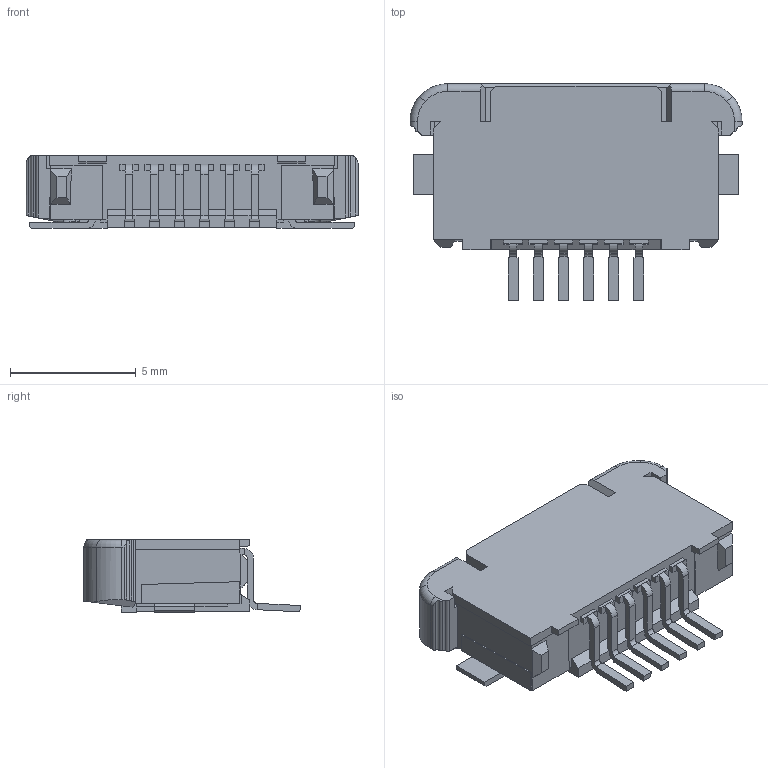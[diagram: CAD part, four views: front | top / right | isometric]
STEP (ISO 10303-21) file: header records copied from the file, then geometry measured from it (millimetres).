
FILE_DESCRIPTION (( 'STEP AP214' ), '1' );
FILE_NAME ('006224006001.STEP', '2024-09-11T04:04:00', ( '' ), ( '' ), 'SwSTEP 2.0', 'SolidWorks 2023', '' );
FILE_SCHEMA (( 'AUTOMOTIVE_DESIGN' ));
Length unit declared in the file: millimetre
Products named in the file (1): 006224006001
Bounding box: 13.2 x 8.61 x 2.9 mm (x, y, z)
Volume: 183.9 mm3; surface area: 378.3 mm2
Topology: 1 solids, 1 shells, 284 faces, 841 edges, 555 vertices
Faces by surface type: plane 228, cylinder 52, torus 4
Entity records: 9595 total; most frequent: CARTESIAN_POINT 1946, ORIENTED_EDGE 1682, DIRECTION 1471, EDGE_CURVE 841, LINE 697, VECTOR 697, VERTEX_POINT 555, AXIS2_PLACEMENT_3D 387
